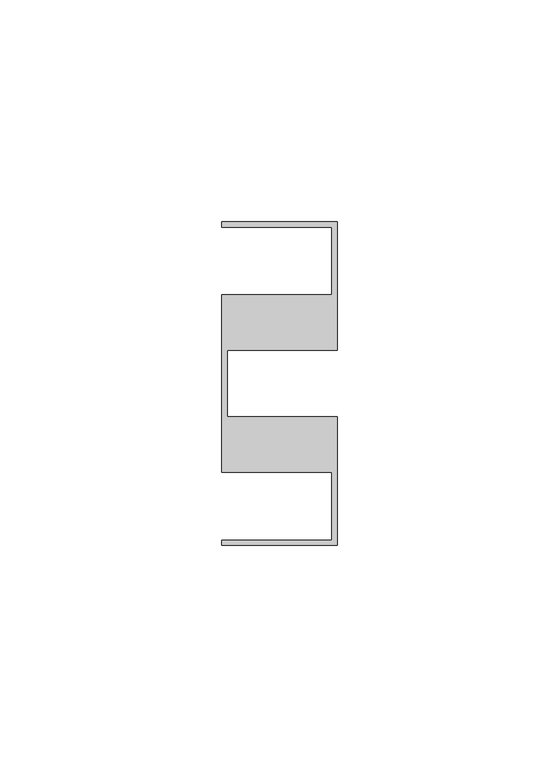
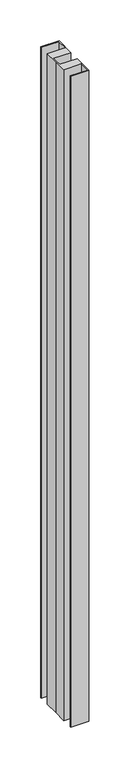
"""IFC4 building model written with IfcOpenShell, lengths in millimetres: member geometry, Прямоугольный импост : 10-AMG-2-Профиль 26Х73 Верх П."""

from ifc_helpers import new_model, si_unit, frame, origin, place, context, project, spatial, polyline, outline, extrude, source, transform, mapped, element, save


def member_1ce3db48(model_context):
    return source(origin(), model_context, "Body", "SweptSolid", [
        extrude(outline(polyline([(-26.0, 36.5), (0.0, 36.5), (0.0, 7.5116043), (-24.8, 7.5116043), (-24.8, 0.0), (-24.8, -7.5116043), (0.0, -7.5116043), (0.0, -36.5), (-26.0, -36.5), (-26.0, -35.3116043), (-1.2, -35.3116043), (-1.2, -20.0), (-26.0, -20.0), (-26.0, 0.0), (-26.0, 20.0), (-1.2, 20.0), (-1.2, 35.3), (-26.0, 35.3), (-26.0, 36.5)])), frame((0.0, 0.0, -974.5011211), z_axis=(0.0, 0.0, 1.0), x_axis=(1.0, 0.0, 0.0)), (0.0, 0.0, 1.0), 974.5011211),
    ])


if __name__ == "__main__":
    model = new_model("IFC4")
    model_context = context("Model", 3, world=origin())
    ifc_project = project(units=[si_unit("LENGTHUNIT", "METRE", prefix="MILLI")], contexts=[model_context])
    site = spatial("IfcSite", under=ifc_project)
    building = spatial("IfcBuilding", under=site)
    placement = place(None, origin())
    member_shape = member_1ce3db48(model_context)
    element("IfcMember", 1, ObjectType="Прямоугольный импост : 10-AMG-2-Профиль 26Х73 Верх П", at=placement, inside=building, context=model_context, shape_type="MappedRepresentation", body=[
        mapped(member_shape, transform((0.0, 0.0, 0.0), x_axis=(1.0, 0.0, 0.0), y_axis=(0.0, 1.0, 0.0), z_axis=(0.0, 0.0, 1.0))),
    ])
    save(model, "model.ifc")
